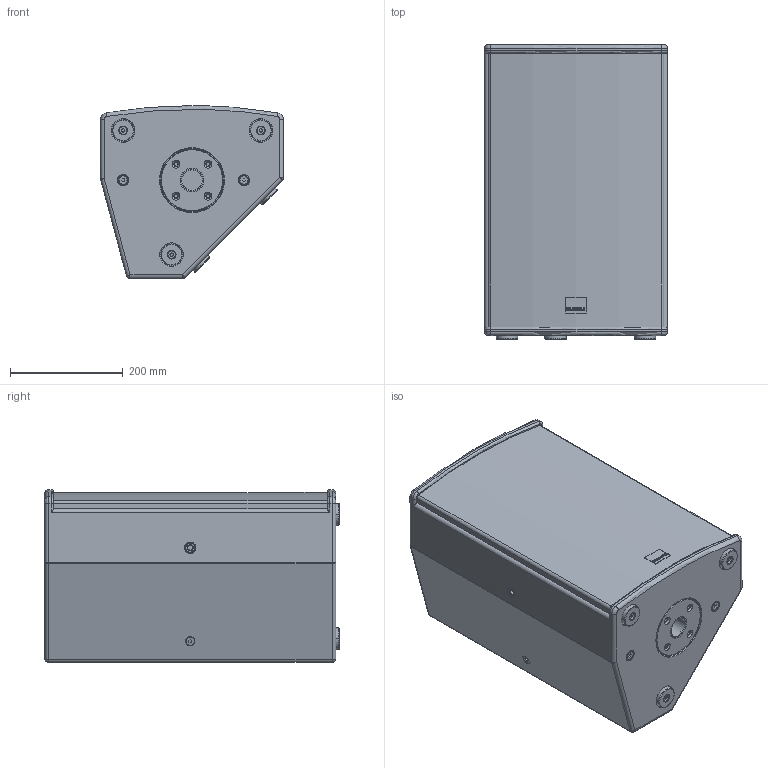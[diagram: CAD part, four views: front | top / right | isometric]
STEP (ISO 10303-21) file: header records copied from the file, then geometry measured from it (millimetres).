
FILE_DESCRIPTION (( 'STEP AP203' ), '1' );
FILE_NAME ('SEEBURG_A4.STEP', '2012-09-27T13:48:58', ( 'Fabian' ), ( '' ), 'SwSTEP 2.0', 'SolidWorks 2009', '' );
FILE_SCHEMA (( 'CONFIG_CONTROL_DESIGN' ));
Length unit declared in the file: millimetre
Products named in the file (2): SEEBURG_A4; A4
Assembly tree (1 placements, depth 2):
  SEEBURG_A4
    A4
Bounding box: 324 x 521 x 306 mm (x, y, z)
Surface area: 1761399 mm2 (no closed solid volume)
Topology: 0 solids, 28 shells, 716 faces, 1674 edges, 1047 vertices
Faces by surface type: cylinder 287, plane 237, cone 92, torus 82, sphere 12, bspline 6
Entity records: 24007 total; most frequent: CARTESIAN_POINT 7176, DIRECTION 3687, ORIENTED_EDGE 3324, EDGE_CURVE 1666, AXIS2_PLACEMENT_3D 1442, VERTEX_POINT 1043, EDGE_LOOP 821, VECTOR 803
